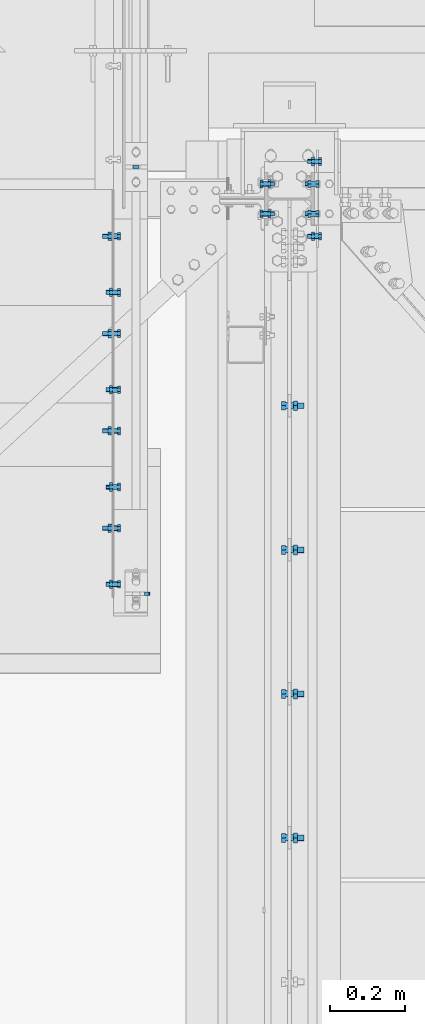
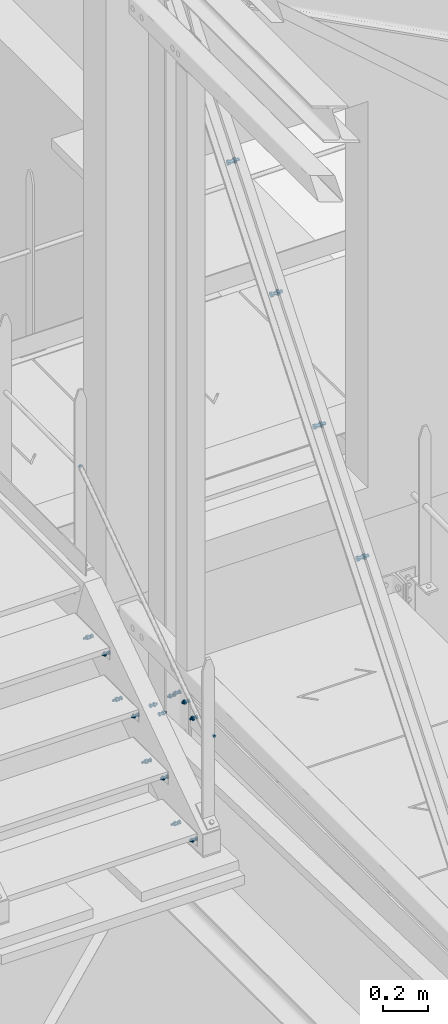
# One storey, part 254 of 362: 20 mechanical fasteners.
"""IFC2X3 building model written with IfcOpenShell, lengths in millimetres."""

import ifcopenshell
import ifcopenshell.guid

model = None  # the IFC model being written
_history = None  # IfcOwnerHistory: only IFC2X3 demands one
_inside = {}  # id of a spatial element -> (the spatial element, [elements in it])
_under = {}  # id of a project, library or spatial element -> (it, [spatial elements below it])
_declared = {}  # id of a project -> (the project, [libraries it declares])
_typed = {}  # id of a type object -> (the type object, [elements of that type])
_made_of = {}  # id of a material, layer set ... -> (it, [elements and type objects made of it])


def new_model(schema):
    """Start an empty IFC model of exactly this schema.

    Asked for "IFC4X3", IfcOpenShell would pick the latest addendum, in which some entities
    have other attributes; the version numbers below select the first issue.
    IFC2X3 requires an IfcOwnerHistory on every rooted entity: one is made here for all.
    """
    global model, _history
    if schema == "IFC4X3":
        model = ifcopenshell.file(schema_version=(4, 3, 0, 0))
    else:
        model = ifcopenshell.file(schema=schema)
    _inside.clear()
    _under.clear()
    _declared.clear()
    _typed.clear()
    _made_of.clear()
    _history = None
    if model.schema == "IFC2X3":
        org = make("IfcOrganization", Name="unknown")
        user = make(
            "IfcPersonAndOrganization",
            ThePerson=make("IfcPerson", FamilyName="unknown"),
            TheOrganization=org,
        )
        app = make(
            "IfcApplication",
            ApplicationDeveloper=org,
            Version="unknown",
            ApplicationFullName="unknown",
            ApplicationIdentifier="unknown",
        )
        _history = make(
            "IfcOwnerHistory",
            OwningUser=user,
            OwningApplication=app,
            ChangeAction="ADDED",
            CreationDate=0,
        )
    return model


def make(cls, **values):
    """One entity of the class cls with the attributes given. An attribute that is None is left unset."""
    return model.create_entity(
        cls, **{name: value for name, value in values.items() if value is not None}
    )


def rooted(cls, **values):
    """An entity with a GlobalId (a new one), such as an element, a storey or a relation."""
    return make(cls, GlobalId=ifcopenshell.guid.new(), OwnerHistory=_history, **values)


def si_unit(unit_type, name, prefix=None):
    """IfcSIUnit, for example si_unit("LENGTHUNIT", "METRE", prefix="MILLI")."""
    return make("IfcSIUnit", UnitType=unit_type, Prefix=prefix, Name=name)


def assignment(units):
    """IfcUnitAssignment: the units of a project."""
    return None if units is None else make("IfcUnitAssignment", Units=units)


def point(xyz):
    """IfcCartesianPoint."""
    return None if xyz is None else make("IfcCartesianPoint", Coordinates=xyz)


def direction(xyz):
    """IfcDirection."""
    return None if xyz is None else make("IfcDirection", DirectionRatios=xyz)


def frame(location, z_axis=None, x_axis=None):
    """IfcAxis2Placement3D, a coordinate frame: its origin and axes. An axis left out is left unset."""
    return make(
        "IfcAxis2Placement3D",
        Location=point(location),
        Axis=direction(z_axis),
        RefDirection=direction(x_axis),
    )


def frame_2d(location, x_axis=None):
    """IfcAxis2Placement2D, a coordinate frame in the plane: its origin and x axis."""
    return make(
        "IfcAxis2Placement2D", Location=point(location), RefDirection=direction(x_axis)
    )


def origin_with_axes():
    """The frame at (0, 0, 0) with the z axis (0, 0, 1) and the x axis (1, 0, 0) written out."""
    return frame((0.0, 0.0, 0.0), z_axis=(0.0, 0.0, 1.0), x_axis=(1.0, 0.0, 0.0))


def origin_2d_with_axis():
    """The frame at (0, 0) in the plane with the x axis (1, 0) written out."""
    return frame_2d((0.0, 0.0), x_axis=(1.0, 0.0))


def place(relative_to, where):
    """IfcLocalPlacement: puts the frame where relative to a parent placement (None: the world)."""
    return make(
        "IfcLocalPlacement", PlacementRelTo=relative_to, RelativePlacement=where
    )


def context(
    kind, dimensions, precision=None, world=None, true_north=None, identifier=None
):
    """IfcGeometricRepresentationContext, for example the 3D "Model" context."""
    return make(
        "IfcGeometricRepresentationContext",
        ContextIdentifier=identifier,
        ContextType=kind,
        CoordinateSpaceDimension=dimensions,
        Precision=precision,
        WorldCoordinateSystem=world,
        TrueNorth=true_north,
    )


def subcontext(parent, identifier, kind, view, scale=None):
    """IfcGeometricRepresentationSubContext, for example "Body" below "Model"."""
    return make(
        "IfcGeometricRepresentationSubContext",
        ContextIdentifier=identifier,
        ContextType=kind,
        ParentContext=parent,
        TargetScale=scale,
        TargetView=view,
    )


def project(units=None, contexts=None):
    """IfcProject with its units and contexts."""
    return rooted(
        "IfcProject",
        Name="project",
        RepresentationContexts=contexts,
        UnitsInContext=assignment(units),
    )


def spatial(cls, under=None, at=None, **own):
    """A site, building, storey or space (cls), placed at a placement, below another one or the project."""
    s = rooted(cls, ObjectPlacement=at, **own)
    if under is not None:
        _under.setdefault(under.id(), (under, []))[1].append(s)
    return s


def polyline(points):
    """IfcPolyline through the points."""
    return make("IfcPolyline", Points=[point(p) for p in points])


def circle_curve(where, radius):
    """IfcCircle in the frame where."""
    return make("IfcCircle", Position=where, Radius=radius)


def parameter(value):
    """IfcParameterValue: where a trimmed curve begins or ends, as a parameter of its basis curve."""
    return model.create_entity("IfcParameterValue", value)


def trimmed(basis, trim1, trim2, sense, master):
    """IfcTrimmedCurve: the piece of a basis curve between two trims."""
    return make(
        "IfcTrimmedCurve",
        BasisCurve=basis,
        Trim1=trim1,
        Trim2=trim2,
        SenseAgreement=sense,
        MasterRepresentation=master,
    )


def segment(curve, same_sense, transition):
    """IfcCompositeCurveSegment."""
    return make(
        "IfcCompositeCurveSegment",
        Transition=transition,
        SameSense=same_sense,
        ParentCurve=curve,
    )


def composite_curve(segments, self_intersect=None):
    """IfcCompositeCurve: segments joined end to end."""
    return make("IfcCompositeCurve", Segments=segments, SelfIntersect=self_intersect)


def profile(cls, at=None, kind="AREA", **sizes):
    """A parametric profile (cls). Its sizes go by their IFC names, for example OverallWidth=200.0."""
    return make(cls, ProfileType=kind, Position=at, **sizes)


def circle(**sizes):
    """IfcCircleProfileDef."""
    return profile("IfcCircleProfileDef", **sizes)


def outline(outer, holes=None, kind="AREA"):
    """IfcArbitraryClosedProfileDef: a profile drawn as a closed curve; with holes, ...WithVoids."""
    if holes is None:
        return make("IfcArbitraryClosedProfileDef", ProfileType=kind, OuterCurve=outer)
    return make(
        "IfcArbitraryProfileDefWithVoids",
        ProfileType=kind,
        OuterCurve=outer,
        InnerCurves=holes,
    )


def extrude(swept, where, along, depth):
    """IfcExtrudedAreaSolid: the profile swept, set in the frame where, extruded along a direction by depth."""
    return make(
        "IfcExtrudedAreaSolid",
        SweptArea=swept,
        Position=where,
        ExtrudedDirection=direction(along),
        Depth=depth,
    )


def shape(context_of_items, identifier, shape_type, items):
    """IfcShapeRepresentation: the items that make up one representation, for example the "Body"."""
    return make(
        "IfcShapeRepresentation",
        ContextOfItems=context_of_items,
        RepresentationIdentifier=identifier,
        RepresentationType=shape_type,
        Items=items,
    )


def source(mapping_origin, context_of_items, identifier, shape_type, items):
    """IfcRepresentationMap: a shape defined once, which mapped items show again and again."""
    return make(
        "IfcRepresentationMap",
        MappingOrigin=mapping_origin,
        MappedRepresentation=shape(context_of_items, identifier, shape_type, items),
    )


def transform(
    local_origin,
    x_axis=None,
    y_axis=None,
    z_axis=None,
    scale=None,
    scale2=None,
    scale3=None,
    uniform=True,
):
    """IfcCartesianTransformationOperator3D, or its non-uniform kind. x_axis, y_axis, z_axis: its Axis1, 2, 3."""
    if uniform:
        return make(
            "IfcCartesianTransformationOperator3D",
            Axis1=direction(x_axis),
            Axis2=direction(y_axis),
            LocalOrigin=point(local_origin),
            Scale=scale,
            Axis3=direction(z_axis),
        )
    return make(
        "IfcCartesianTransformationOperator3DnonUniform",
        Axis1=direction(x_axis),
        Axis2=direction(y_axis),
        LocalOrigin=point(local_origin),
        Scale=scale,
        Axis3=direction(z_axis),
        Scale2=scale2,
        Scale3=scale3,
    )


def mapped(mapping_source, mapping_target):
    """IfcMappedItem: shows the shape of a source again, moved by a transform."""
    return make(
        "IfcMappedItem", MappingSource=mapping_source, MappingTarget=mapping_target
    )


def material(Name=None, Category=None):
    """IfcMaterial."""
    return make("IfcMaterial", Name=Name, Category=Category)


def made_of(thing, what):
    """Note that an element or type object is made of a material, layer set ...; save() writes the relation."""
    if what is not None:
        _made_of.setdefault(what.id(), (what, []))[1].append(thing)
    return thing


def type_object(cls, material=None, **own):
    """A type object (cls), such as IfcWallType, which elements share."""
    return made_of(rooted(cls, **own), material)


def element(
    cls,
    number,
    at=None,
    inside=None,
    cuts=None,
    type_object=None,
    material=None,
    context=None,
    identifier="Body",
    shape_type=None,
    held_by="IfcProductDefinitionShape",
    body=None,
    shapes=None,
    **own,
):
    """One element of the class cls, such as IfcWall. Its Tag is "e" and its number.

    at: its placement. inside: the storey or other place that contains it. cuts: it is an
    opening in that element (IfcRelVoidsElement). A single representation is given by context,
    identifier, shape_type and body (its items); several are given by shapes. held_by: the class
    of the entity that holds the representations. save() writes the other relations.
    """
    e = rooted(cls, Tag="e%d" % number, ObjectPlacement=at, **own)
    if body is not None:
        shapes = [shape(context, identifier, shape_type, body)]
    if shapes is not None:
        e.Representation = make(held_by, Representations=shapes)
    if inside is not None:
        _inside.setdefault(inside.id(), (inside, []))[1].append(e)
    if cuts is not None:
        rooted(
            "IfcRelVoidsElement", RelatingBuildingElement=cuts, RelatedOpeningElement=e
        )
    if type_object is not None:
        _typed.setdefault(type_object.id(), (type_object, []))[1].append(e)
    return made_of(e, material)


def aggregate(whole, parts):
    """IfcRelAggregates: a whole, such as a stair, and the parts it consists of."""
    return rooted("IfcRelAggregates", RelatingObject=whole, RelatedObjects=parts)


def save(model, path):
    """Write the relations noted so far, then the file.

    IfcRelAggregates (storeys below a building ...), IfcRelContainedInSpatialStructure (elements
    in a storey), IfcRelDefinesByType, IfcRelAssociatesMaterial and IfcRelDeclares: one each for
    every whole, place, type object, material and project.
    """
    for whole, parts in _under.values():
        aggregate(whole, parts)
    for where, things in _inside.values():
        rooted(
            "IfcRelContainedInSpatialStructure",
            RelatedElements=things,
            RelatingStructure=where,
        )
    for kind, things in _typed.values():
        rooted("IfcRelDefinesByType", RelatedObjects=things, RelatingType=kind)
    for what, things in _made_of.values():
        rooted("IfcRelAssociatesMaterial", RelatedObjects=things, RelatingMaterial=what)
    for by, libraries in _declared.values():
        rooted("IfcRelDeclares", RelatingContext=by, RelatedDefinitions=libraries)
    model.write(path)


model = new_model("IFC2X3")

# Units and contexts
model_context = context("Model", 3, precision=1e-05, world=origin_with_axes())
body_context = subcontext(model_context, "Body", "Model", "MODEL_VIEW")
ifc_project = project(units=[si_unit("LENGTHUNIT", "METRE", prefix="MILLI"), si_unit("AREAUNIT", "SQUARE_METRE"), si_unit("VOLUMEUNIT", "CUBIC_METRE"), si_unit("MASSUNIT", "GRAM", prefix="KILO"), si_unit("TIMEUNIT", "SECOND"), si_unit("PLANEANGLEUNIT", "RADIAN"), si_unit("SOLIDANGLEUNIT", "STERADIAN"), si_unit("THERMODYNAMICTEMPERATUREUNIT", "DEGREE_CELSIUS"), si_unit("LUMINOUSINTENSITYUNIT", "LUMEN")], contexts=[model_context])

# Site, building, storey
site_placement = place(None, origin_with_axes())
site = spatial("IfcSite", under=ifc_project, at=site_placement, Name="Undefined", CompositionType="ELEMENT")
building_placement = place(site_placement, origin_with_axes())
building = spatial("IfcBuilding", under=site, at=building_placement, Name="Undefined", CompositionType="ELEMENT")
storey_placement = place(building_placement, origin_with_axes())
storey = spatial("IfcBuildingStorey", under=building, at=storey_placement, Name="Undefined", CompositionType="ELEMENT", Elevation=0.0)

# Mechanical fasteners
ifc_material_1 = material(Name="6.8")
mechanical_fastener_type = type_object("IfcMechanicalFastenerType", Name="Bolt assembly")
shared_shape_1 = source(origin_with_axes(), body_context, "Body", "SweptSolid", [
    extrude(circle(Radius=7.0, at=origin_2d_with_axis()), frame((0.0, 6.26397177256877e-05, 0.0), z_axis=(0.0, 1.0, 0.0), x_axis=(1.0, 0.0, 0.0)), (0.0, 0.0, 1.0), 10.1),
])
mechanical_fastener_1_placement = place(storey_placement, frame((12269.9936634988, 15290.0038659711, 9438.8), z_axis=(0.0, 0.0, 1.0), x_axis=(-1.0, 0.0, 0.0)))
element("IfcMechanicalFastener", 1, at=mechanical_fastener_1_placement, inside=storey, type_object=mechanical_fastener_type, material=ifc_material_1, Name="Bolt assembly", NominalDiameter=12.0, NominalLength=10.0, context=body_context, shape_type="MappedRepresentation", body=[
    mapped(shared_shape_1, transform((0.0, 0.0, 0.0))),
])
shared_shape_2 = source(origin_with_axes(), body_context, "Body", "SweptSolid", [
    extrude(circle(Radius=7.0, at=origin_2d_with_axis()), frame((0.0, 0.000125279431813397, 0.0), z_axis=(0.0, 1.0, 0.0), x_axis=(1.0, 0.0, 0.0)), (0.0, 0.0, 1.0), 10.1),
])
mechanical_fastener_2_placement = place(storey_placement, frame((12299.9935277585, 14149.9999163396, 8654.59997578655), z_axis=(0.0, 0.0, 1.0), x_axis=(-1.0, 0.0, 0.0)))
element("IfcMechanicalFastener", 2, at=mechanical_fastener_2_placement, inside=storey, type_object=mechanical_fastener_type, material=ifc_material_1, Name="Bolt assembly", NominalDiameter=12.0, NominalLength=10.0, context=body_context, shape_type="MappedRepresentation", body=[
    mapped(shared_shape_2, transform((0.0, 0.0, 0.0))),
])
ifc_material_2 = material(Name="8.8-SB-GALVA")
shared_shape_3 = source(origin_with_axes(), body_context, "Body", "SweptSolid", [
    extrude(circle(Radius=7.0, at=origin_2d_with_axis()), frame((0.0, -9.90049171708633, 0.0), z_axis=(0.0, 1.0, 0.0), x_axis=(1.0, 0.0, 0.0)), (0.0, 0.0, 1.0), 10.0),
    extrude(circle(Radius=7.0, at=origin_2d_with_axis()), frame((0.0, -0.100011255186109, 0.0), z_axis=(0.0, 1.0, 0.0), x_axis=(1.0, 0.0, 0.0)), (0.0, 0.0, 1.0), 3.1),
    extrude(outline(polyline([(10.39230484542, 0.0), (5.19615242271, 9.00000000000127), (-5.19615242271, 9.00000000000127), (-10.39230484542, 0.0), (-5.19615242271, -9.00000000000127), (5.19615242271, -9.00000000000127), (10.39230484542, 0.0)])), frame((0.0, -17.9204917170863, 0.0), z_axis=(0.0, 1.0, 0.0), x_axis=(1.0, 0.0, 0.0)), (0.0, 0.0, 1.0), 7.92),
    extrude(circle(Radius=6.0, at=origin_2d_with_axis()), frame((0.0, -10.0004917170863, 0.0), z_axis=(0.0, 1.0, 0.0), x_axis=(1.0, 0.0, 0.0)), (0.0, 0.0, 1.0), 30.0),
    extrude(outline(polyline([(11.5008173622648, 0.0), (5.7504086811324, 9.96000000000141), (-5.7504086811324, 9.96000000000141), (-11.5008173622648, 0.0), (-5.7504086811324, -9.96000000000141), (5.7504086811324, -9.96000000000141), (11.5008173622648, 0.0)])), frame((0.0, 3.00000067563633, 0.0), z_axis=(0.0, 1.0, 0.0), x_axis=(1.0, 0.0, 0.0)), (0.0, 0.0, 1.0), 7.92),
])
mechanical_fastener_3_placement = place(storey_placement, frame((12209.9947340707, 14949.9997910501, 8645.0), z_axis=(0.0, 0.0, 1.0), x_axis=(0.0, 1.0, 0.0)))
element("IfcMechanicalFastener", 3, at=mechanical_fastener_3_placement, inside=storey, type_object=mechanical_fastener_type, material=ifc_material_2, Name="Bolt assembly", NominalDiameter=12.0, NominalLength=30.0, context=body_context, shape_type="MappedRepresentation", body=[
    mapped(shared_shape_3, transform((0.0, 0.0, 0.0))),
])
shared_shape_4 = source(origin_with_axes(), body_context, "Body", "SweptSolid", [
    extrude(circle(Radius=7.0, at=origin_2d_with_axis()), frame((0.0, -9.90049171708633, 0.0), z_axis=(0.0, 1.0, 0.0), x_axis=(1.0, 0.0, 0.0)), (0.0, 0.0, 1.0), 10.0),
    extrude(outline(composite_curve([segment(polyline([(-7.0, 7.0), (7.0, 7.0)]), True, "CONTINUOUS"), segment(trimmed(circle_curve(frame_2d((7.0, 0.0), x_axis=(0.0, 1.0)), 7.0), [parameter(0.0)], [parameter(3.14159265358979)], False, "PARAMETER"), True, "CONTINUOUS"), segment(polyline([(7.0, -7.0), (-7.0, -7.0)]), True, "CONTINUOUS"), segment(trimmed(circle_curve(frame_2d((-7.0, 0.0), x_axis=(0.0, -1.0)), 7.0), [parameter(0.0)], [parameter(3.14159265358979)], False, "PARAMETER"), True, "DISCONTINUOUS")], self_intersect=False)), frame((0.0, -0.100011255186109, 0.0), z_axis=(0.0, 1.0, 0.0), x_axis=(1.0, 0.0, 0.0)), (0.0, 0.0, 1.0), 3.1),
    extrude(outline(polyline([(10.39230484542, 0.0), (5.19615242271, 9.00000000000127), (-5.19615242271, 9.00000000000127), (-10.39230484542, 0.0), (-5.19615242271, -9.00000000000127), (5.19615242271, -9.00000000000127), (10.39230484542, 0.0)])), frame((0.0, -17.9204917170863, 0.0), z_axis=(0.0, 1.0, 0.0), x_axis=(1.0, 0.0, 0.0)), (0.0, 0.0, 1.0), 7.92),
    extrude(circle(Radius=6.0, at=origin_2d_with_axis()), frame((0.0, -10.0004917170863, 0.0), z_axis=(0.0, 1.0, 0.0), x_axis=(1.0, 0.0, 0.0)), (0.0, 0.0, 1.0), 40.0),
    extrude(circle(Radius=10.8, at=origin_2d_with_axis()), frame((0.0, 3.00000067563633, 0.0), z_axis=(0.0, 1.0, 0.0), x_axis=(1.0, 0.0, 0.0)), (0.0, 0.0, 1.0), 3.96),
    extrude(outline(polyline([(11.5008173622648, 0.0), (5.7504086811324, 9.96000000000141), (-5.7504086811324, 9.96000000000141), (-11.5008173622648, 0.0), (-5.7504086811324, -9.96000000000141), (5.7504086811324, -9.96000000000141), (11.5008173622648, 0.0)])), frame((0.0, 6.96, 0.0), z_axis=(0.0, 1.0, 0.0), x_axis=(1.0, 0.0, 0.0)), (0.0, 0.0, 1.0), 7.92),
])
mechanical_fastener_4_placement = place(storey_placement, frame((12209.9947340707, 15099.9997910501, 8645.0), z_axis=(0.0, 0.0, 1.0), x_axis=(0.0, 1.0, 0.0)))
element("IfcMechanicalFastener", 4, at=mechanical_fastener_4_placement, inside=storey, type_object=mechanical_fastener_type, material=ifc_material_2, Name="Bolt assembly", NominalDiameter=12.0, NominalLength=40.0, context=body_context, shape_type="MappedRepresentation", body=[
    mapped(shared_shape_4, transform((0.0, 0.0, 0.0))),
])
shared_shape_5 = source(origin_with_axes(), body_context, "Body", "SweptSolid", [
    extrude(circle(Radius=7.0, at=origin_2d_with_axis()), frame((0.0, -9.89994875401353, 0.0), z_axis=(0.0, 1.0, 0.0), x_axis=(1.0, 0.0, 0.0)), (0.0, 0.0, 1.0), 10.0),
    extrude(circle(Radius=7.0, at=origin_2d_with_axis()), frame((0.0, -0.100011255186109, 0.0), z_axis=(0.0, 1.0, 0.0), x_axis=(1.0, 0.0, 0.0)), (0.0, 0.0, 1.0), 3.1),
    extrude(outline(polyline([(10.39230484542, 0.0), (5.19615242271, 9.00000000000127), (-5.19615242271, 9.00000000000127), (-10.39230484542, 0.0), (-5.19615242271, -9.00000000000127), (5.19615242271, -9.00000000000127), (10.39230484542, 0.0)])), frame((0.0, -17.9199487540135, 0.0), z_axis=(0.0, 1.0, 0.0), x_axis=(1.0, 0.0, 0.0)), (0.0, 0.0, 1.0), 7.92),
    extrude(circle(Radius=6.0, at=origin_2d_with_axis()), frame((0.0, -9.99994875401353, 0.0), z_axis=(0.0, 1.0, 0.0), x_axis=(1.0, 0.0, 0.0)), (0.0, 0.0, 1.0), 30.0),
    extrude(outline(polyline([(11.5008173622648, 0.0), (5.7504086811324, 9.96000000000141), (-5.7504086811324, 9.96000000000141), (-11.5008173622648, 0.0), (-5.7504086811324, -9.96000000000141), (5.7504086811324, -9.96000000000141), (11.5008173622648, 0.0)])), frame((0.0, 3.00000067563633, 0.0), z_axis=(0.0, 1.0, 0.0), x_axis=(1.0, 0.0, 0.0)), (0.0, 0.0, 1.0), 7.92),
])
mechanical_fastener_5_placement = place(storey_placement, frame((12209.9947340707, 14689.9997910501, 8465.00000004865), z_axis=(0.0, 0.0, 1.0), x_axis=(0.0, 1.0, 0.0)))
element("IfcMechanicalFastener", 5, at=mechanical_fastener_5_placement, inside=storey, type_object=mechanical_fastener_type, material=ifc_material_2, Name="Bolt assembly", NominalDiameter=12.0, NominalLength=30.0, context=body_context, shape_type="MappedRepresentation", body=[
    mapped(shared_shape_5, transform((0.0, 0.0, 0.0))),
])
shared_shape_6 = source(origin_with_axes(), body_context, "Body", "SweptSolid", [
    extrude(circle(Radius=7.0, at=origin_2d_with_axis()), frame((0.0, -9.9, 0.0), z_axis=(0.0, 1.0, 0.0), x_axis=(1.0, 0.0, 0.0)), (0.0, 0.0, 1.0), 10.0),
    extrude(outline(composite_curve([segment(polyline([(-7.0, 7.0), (7.0, 7.0)]), True, "CONTINUOUS"), segment(trimmed(circle_curve(frame_2d((7.0, 0.0), x_axis=(0.0, 1.0)), 7.0), [parameter(0.0)], [parameter(3.14159265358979)], False, "PARAMETER"), True, "CONTINUOUS"), segment(polyline([(7.0, -7.0), (-7.0, -7.0)]), True, "CONTINUOUS"), segment(trimmed(circle_curve(frame_2d((-7.0, 0.0), x_axis=(0.0, -1.0)), 7.0), [parameter(0.0)], [parameter(3.14159265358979)], False, "PARAMETER"), True, "DISCONTINUOUS")], self_intersect=False)), frame((0.0, -0.100011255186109, 0.0), z_axis=(0.0, 1.0, 0.0), x_axis=(1.0, 0.0, 0.0)), (0.0, 0.0, 1.0), 3.1),
    extrude(outline(polyline([(10.39230484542, 0.0), (5.19615242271, 9.00000000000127), (-5.19615242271, 9.00000000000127), (-10.39230484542, 0.0), (-5.19615242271, -9.00000000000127), (5.19615242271, -9.00000000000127), (10.39230484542, 0.0)])), frame((0.0, -17.92, 0.0), z_axis=(0.0, 1.0, 0.0), x_axis=(1.0, 0.0, 0.0)), (0.0, 0.0, 1.0), 7.92),
    extrude(circle(Radius=6.0, at=origin_2d_with_axis()), frame((0.0, -10.0000010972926, 0.0), z_axis=(0.0, 1.0, 0.0), x_axis=(1.0, 0.0, 0.0)), (0.0, 0.0, 1.0), 40.0),
    extrude(circle(Radius=10.8, at=origin_2d_with_axis()), frame((0.0, 3.00000067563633, 0.0), z_axis=(0.0, 1.0, 0.0), x_axis=(1.0, 0.0, 0.0)), (0.0, 0.0, 1.0), 3.96),
    extrude(outline(polyline([(11.5008173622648, 0.0), (5.7504086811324, 9.96000000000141), (-5.7504086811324, 9.96000000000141), (-11.5008173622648, 0.0), (-5.7504086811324, -9.96000000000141), (5.7504086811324, -9.96000000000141), (11.5008173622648, 0.0)])), frame((0.0, 6.96, 0.0), z_axis=(0.0, 1.0, 0.0), x_axis=(1.0, 0.0, 0.0)), (0.0, 0.0, 1.0), 7.92),
])
mechanical_fastener_6_placement = place(storey_placement, frame((12209.9947340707, 14839.9997910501, 8465.00000004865), z_axis=(0.0, 0.0, 1.0), x_axis=(0.0, 1.0, 0.0)))
element("IfcMechanicalFastener", 6, at=mechanical_fastener_6_placement, inside=storey, type_object=mechanical_fastener_type, material=ifc_material_2, Name="Bolt assembly", NominalDiameter=12.0, NominalLength=40.0, context=body_context, shape_type="MappedRepresentation", body=[
    mapped(shared_shape_6, transform((0.0, 0.0, 0.0))),
])
shared_shape_7 = source(origin_with_axes(), body_context, "Body", "SweptSolid", [
    extrude(circle(Radius=7.0, at=origin_2d_with_axis()), frame((0.0, -9.89940579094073, 0.0), z_axis=(0.0, 1.0, 0.0), x_axis=(1.0, 0.0, 0.0)), (0.0, 0.0, 1.0), 10.0),
    extrude(circle(Radius=7.0, at=origin_2d_with_axis()), frame((0.0, -0.100011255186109, 0.0), z_axis=(0.0, 1.0, 0.0), x_axis=(1.0, 0.0, 0.0)), (0.0, 0.0, 1.0), 3.1),
    extrude(outline(polyline([(10.39230484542, 0.0), (5.19615242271, 9.00000000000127), (-5.19615242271, 9.00000000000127), (-10.39230484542, 0.0), (-5.19615242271, -9.00000000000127), (5.19615242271, -9.00000000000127), (10.39230484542, 0.0)])), frame((0.0, -17.9194057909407, 0.0), z_axis=(0.0, 1.0, 0.0), x_axis=(1.0, 0.0, 0.0)), (0.0, 0.0, 1.0), 7.92),
    extrude(circle(Radius=6.0, at=origin_2d_with_axis()), frame((0.0, -9.99940579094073, 0.0), z_axis=(0.0, 1.0, 0.0), x_axis=(1.0, 0.0, 0.0)), (0.0, 0.0, 1.0), 30.0),
    extrude(outline(polyline([(11.5008173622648, 0.0), (5.7504086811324, 9.96000000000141), (-5.7504086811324, 9.96000000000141), (-11.5008173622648, 0.0), (-5.7504086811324, -9.96000000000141), (5.7504086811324, -9.96000000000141), (11.5008173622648, 0.0)])), frame((0.0, 3.00000067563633, 0.0), z_axis=(0.0, 1.0, 0.0), x_axis=(1.0, 0.0, 0.0)), (0.0, 0.0, 1.0), 7.92),
])
mechanical_fastener_7_placement = place(storey_placement, frame((12209.9947340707, 14429.9997910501, 8285.00000007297), z_axis=(0.0, 0.0, 1.0), x_axis=(0.0, 1.0, 0.0)))
element("IfcMechanicalFastener", 7, at=mechanical_fastener_7_placement, inside=storey, type_object=mechanical_fastener_type, material=ifc_material_2, Name="Bolt assembly", NominalDiameter=12.0, NominalLength=30.0, context=body_context, shape_type="MappedRepresentation", body=[
    mapped(shared_shape_7, transform((0.0, 0.0, 0.0))),
])
shared_shape_8 = source(origin_with_axes(), body_context, "Body", "SweptSolid", [
    extrude(circle(Radius=7.0, at=origin_2d_with_axis()), frame((0.0, -9.89940579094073, 0.0), z_axis=(0.0, 1.0, 0.0), x_axis=(1.0, 0.0, 0.0)), (0.0, 0.0, 1.0), 10.0),
    extrude(outline(composite_curve([segment(polyline([(-7.0, 7.0), (7.0, 7.0)]), True, "CONTINUOUS"), segment(trimmed(circle_curve(frame_2d((7.0, 0.0), x_axis=(0.0, 1.0)), 7.0), [parameter(0.0)], [parameter(3.14159265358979)], False, "PARAMETER"), True, "CONTINUOUS"), segment(polyline([(7.0, -7.0), (-7.0, -7.0)]), True, "CONTINUOUS"), segment(trimmed(circle_curve(frame_2d((-7.0, 0.0), x_axis=(0.0, -1.0)), 7.0), [parameter(0.0)], [parameter(3.14159265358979)], False, "PARAMETER"), True, "DISCONTINUOUS")], self_intersect=False)), frame((0.0, -0.100011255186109, 0.0), z_axis=(0.0, 1.0, 0.0), x_axis=(1.0, 0.0, 0.0)), (0.0, 0.0, 1.0), 3.1),
    extrude(outline(polyline([(10.39230484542, 0.0), (5.19615242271, 9.00000000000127), (-5.19615242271, 9.00000000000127), (-10.39230484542, 0.0), (-5.19615242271, -9.00000000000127), (5.19615242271, -9.00000000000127), (10.39230484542, 0.0)])), frame((0.0, -17.9194057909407, 0.0), z_axis=(0.0, 1.0, 0.0), x_axis=(1.0, 0.0, 0.0)), (0.0, 0.0, 1.0), 7.92),
    extrude(circle(Radius=6.0, at=origin_2d_with_axis()), frame((0.0, -9.99940579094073, 0.0), z_axis=(0.0, 1.0, 0.0), x_axis=(1.0, 0.0, 0.0)), (0.0, 0.0, 1.0), 40.0),
    extrude(circle(Radius=10.8, at=origin_2d_with_axis()), frame((0.0, 3.00000067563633, 0.0), z_axis=(0.0, 1.0, 0.0), x_axis=(1.0, 0.0, 0.0)), (0.0, 0.0, 1.0), 3.96),
    extrude(outline(polyline([(11.5008173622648, 0.0), (5.7504086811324, 9.96000000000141), (-5.7504086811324, 9.96000000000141), (-11.5008173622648, 0.0), (-5.7504086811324, -9.96000000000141), (5.7504086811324, -9.96000000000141), (11.5008173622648, 0.0)])), frame((0.0, 6.96, 0.0), z_axis=(0.0, 1.0, 0.0), x_axis=(1.0, 0.0, 0.0)), (0.0, 0.0, 1.0), 7.92),
])
mechanical_fastener_8_placement = place(storey_placement, frame((12209.9947340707, 14579.9997910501, 8285.00000007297), z_axis=(0.0, 0.0, 1.0), x_axis=(0.0, 1.0, 0.0)))
element("IfcMechanicalFastener", 8, at=mechanical_fastener_8_placement, inside=storey, type_object=mechanical_fastener_type, material=ifc_material_2, Name="Bolt assembly", NominalDiameter=12.0, NominalLength=40.0, context=body_context, shape_type="MappedRepresentation", body=[
    mapped(shared_shape_8, transform((0.0, 0.0, 0.0))),
])
shared_shape_9 = source(origin_with_axes(), body_context, "Body", "SweptSolid", [
    extrude(circle(Radius=7.0, at=origin_2d_with_axis()), frame((0.0, -9.89886282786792, 0.0), z_axis=(0.0, 1.0, 0.0), x_axis=(1.0, 0.0, 0.0)), (0.0, 0.0, 1.0), 10.0),
    extrude(circle(Radius=7.0, at=origin_2d_with_axis()), frame((0.0, -0.100011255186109, 0.0), z_axis=(0.0, 1.0, 0.0), x_axis=(1.0, 0.0, 0.0)), (0.0, 0.0, 1.0), 3.1),
    extrude(outline(polyline([(10.39230484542, 0.0), (5.19615242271, 9.00000000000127), (-5.19615242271, 9.00000000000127), (-10.39230484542, 0.0), (-5.19615242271, -9.00000000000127), (5.19615242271, -9.00000000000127), (10.39230484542, 0.0)])), frame((0.0, -17.9188628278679, 0.0), z_axis=(0.0, 1.0, 0.0), x_axis=(1.0, 0.0, 0.0)), (0.0, 0.0, 1.0), 7.92),
    extrude(circle(Radius=6.0, at=origin_2d_with_axis()), frame((0.0, -9.99886282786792, 0.0), z_axis=(0.0, 1.0, 0.0), x_axis=(1.0, 0.0, 0.0)), (0.0, 0.0, 1.0), 30.0),
    extrude(outline(polyline([(11.5008173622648, 0.0), (5.7504086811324, 9.96000000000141), (-5.7504086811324, 9.96000000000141), (-11.5008173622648, 0.0), (-5.7504086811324, -9.96000000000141), (5.7504086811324, -9.96000000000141), (11.5008173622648, 0.0)])), frame((0.0, 3.00000067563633, 0.0), z_axis=(0.0, 1.0, 0.0), x_axis=(1.0, 0.0, 0.0)), (0.0, 0.0, 1.0), 7.92),
])
mechanical_fastener_9_placement = place(storey_placement, frame((12209.9947340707, 14169.9997910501, 8105.0000000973), z_axis=(0.0, 0.0, 1.0), x_axis=(0.0, 1.0, 0.0)))
element("IfcMechanicalFastener", 9, at=mechanical_fastener_9_placement, inside=storey, type_object=mechanical_fastener_type, material=ifc_material_2, Name="Bolt assembly", NominalDiameter=12.0, NominalLength=30.0, context=body_context, shape_type="MappedRepresentation", body=[
    mapped(shared_shape_9, transform((0.0, 0.0, 0.0))),
])
shared_shape_10 = source(origin_with_axes(), body_context, "Body", "SweptSolid", [
    extrude(circle(Radius=7.0, at=origin_2d_with_axis()), frame((0.0, -9.89886282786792, 0.0), z_axis=(0.0, 1.0, 0.0), x_axis=(1.0, 0.0, 0.0)), (0.0, 0.0, 1.0), 10.0),
    extrude(outline(composite_curve([segment(polyline([(-7.0, 7.0), (7.0, 7.0)]), True, "CONTINUOUS"), segment(trimmed(circle_curve(frame_2d((7.0, 0.0), x_axis=(0.0, 1.0)), 7.0), [parameter(0.0)], [parameter(3.14159265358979)], False, "PARAMETER"), True, "CONTINUOUS"), segment(polyline([(7.0, -7.0), (-7.0, -7.0)]), True, "CONTINUOUS"), segment(trimmed(circle_curve(frame_2d((-7.0, 0.0), x_axis=(0.0, -1.0)), 7.0), [parameter(0.0)], [parameter(3.14159265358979)], False, "PARAMETER"), True, "DISCONTINUOUS")], self_intersect=False)), frame((0.0, -0.100011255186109, 0.0), z_axis=(0.0, 1.0, 0.0), x_axis=(1.0, 0.0, 0.0)), (0.0, 0.0, 1.0), 3.1),
    extrude(outline(polyline([(10.39230484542, 0.0), (5.19615242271, 9.00000000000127), (-5.19615242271, 9.00000000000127), (-10.39230484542, 0.0), (-5.19615242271, -9.00000000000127), (5.19615242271, -9.00000000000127), (10.39230484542, 0.0)])), frame((0.0, -17.9188628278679, 0.0), z_axis=(0.0, 1.0, 0.0), x_axis=(1.0, 0.0, 0.0)), (0.0, 0.0, 1.0), 7.92),
    extrude(circle(Radius=6.0, at=origin_2d_with_axis()), frame((0.0, -9.99886282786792, 0.0), z_axis=(0.0, 1.0, 0.0), x_axis=(1.0, 0.0, 0.0)), (0.0, 0.0, 1.0), 40.0),
    extrude(circle(Radius=10.8, at=origin_2d_with_axis()), frame((0.0, 3.00000067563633, 0.0), z_axis=(0.0, 1.0, 0.0), x_axis=(1.0, 0.0, 0.0)), (0.0, 0.0, 1.0), 3.96),
    extrude(outline(polyline([(11.5008173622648, 0.0), (5.7504086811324, 9.96000000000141), (-5.7504086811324, 9.96000000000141), (-11.5008173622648, 0.0), (-5.7504086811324, -9.96000000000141), (5.7504086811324, -9.96000000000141), (11.5008173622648, 0.0)])), frame((0.0, 6.96, 0.0), z_axis=(0.0, 1.0, 0.0), x_axis=(1.0, 0.0, 0.0)), (0.0, 0.0, 1.0), 7.92),
])
mechanical_fastener_10_placement = place(storey_placement, frame((12209.9947340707, 14319.9997910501, 8105.0000000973), z_axis=(0.0, 0.0, 1.0), x_axis=(0.0, 1.0, 0.0)))
element("IfcMechanicalFastener", 10, at=mechanical_fastener_10_placement, inside=storey, type_object=mechanical_fastener_type, material=ifc_material_2, Name="Bolt assembly", NominalDiameter=12.0, NominalLength=40.0, context=body_context, shape_type="MappedRepresentation", body=[
    mapped(shared_shape_10, transform((0.0, 0.0, 0.0))),
])
ifc_material_3 = material(Name="8.8-SB-ZINGUE")
shared_shape_11 = source(origin_with_axes(), body_context, "Body", "SweptSolid", [
    extrude(circle(Radius=9.0, at=origin_2d_with_axis()), frame((0.0, -10.9000000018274, 0.0), z_axis=(0.0, 1.0, 0.0), x_axis=(1.0, 0.0, 0.0)), (0.0, 0.0, 1.0), 6.0),
    extrude(circle(Radius=9.0, at=origin_2d_with_axis()), frame((0.0, 4.9000000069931, 0.0), z_axis=(0.0, 1.0, 0.0), x_axis=(1.0, 0.0, 0.0)), (0.0, 0.0, 1.0), 6.1),
    extrude(circle(Radius=9.0, at=origin_2d_with_axis()), frame((0.0, -3.99999923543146, 0.0), z_axis=(0.0, 1.0, 0.0), x_axis=(1.0, 0.0, 0.0)), (0.0, 0.0, 1.0), 8.0),
    extrude(outline(polyline([(13.85640646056, 0.0), (6.92820323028, 12.0000000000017), (-6.92820323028, 12.0000000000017), (-13.85640646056, 0.0), (-6.92820323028, -12.0000000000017), (6.92820323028, -12.0000000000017), (13.85640646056, 0.0)])), frame((0.0, -21.5600000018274, 0.0), z_axis=(0.0, 1.0, 0.0), x_axis=(1.0, 0.0, 0.0)), (0.0, 0.0, 1.0), 10.56),
    extrude(circle(Radius=8.0, at=origin_2d_with_axis()), frame((0.0, -11.0000000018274, 0.0), z_axis=(0.0, 1.0, 0.0), x_axis=(1.0, 0.0, 0.0)), (0.0, 0.0, 1.0), 50.0),
    extrude(outline(polyline([(15.3344231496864, 0.0), (7.6672115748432, 13.2800000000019), (-7.6672115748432, 13.2800000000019), (-15.3344231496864, 0.0), (-7.6672115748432, -13.2800000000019), (7.6672115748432, -13.2800000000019), (15.3344231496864, 0.0)])), frame((0.0, 11.0000000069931, 0.0), z_axis=(0.0, 1.0, 0.0), x_axis=(1.0, 0.0, 0.0)), (0.0, 0.0, 1.0), 10.56),
])
for number, where, z_axis, x_axis, name in (
    (11, (12680.0, 13492.4589858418, 9885.94767396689), (0.0, 1.0, 0.0), (0.0, 0.0, 1.0), "Bolt assembly"),
    (12, (12680.0, 13877.3769562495, 10370.8430229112), (0.0, 1.0, 0.0), (0.0, 0.0, 1.0), "Bolt assembly"),
    (13, (12680.0, 14262.2949266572, 10855.7383718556), (0.0, 1.0, 0.0), (0.0, 0.0, 1.0), "Bolt assembly"),
    (14, (12680.0, 14647.2128970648, 11340.6337207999), (0.0, 1.0, 0.0), (0.0, 0.0, 1.0), "Bolt assembly"),
):
    element("IfcMechanicalFastener", number, at=place(storey_placement, frame(where, z_axis=z_axis, x_axis=x_axis)), inside=storey, type_object=mechanical_fastener_type, material=ifc_material_3, Name=name, NominalDiameter=16.0, NominalLength=50.0, context=body_context, shape_type="MappedRepresentation", body=[
        mapped(shared_shape_11, transform((0.0, 0.0, 0.0))),
    ])
shared_shape_12 = source(origin_with_axes(), body_context, "Body", "SweptSolid", [
    extrude(circle(Radius=7.0, at=origin_2d_with_axis()), frame((0.0, -0.108038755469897, 0.0), z_axis=(0.0, 1.0, 0.0), x_axis=(1.0, 0.0, 0.0)), (0.0, 0.0, 1.0), 5.1),
    extrude(circle(Radius=7.0, at=origin_2d_with_axis()), frame((0.0, -6.4, 0.0), z_axis=(0.0, 1.0, 0.0), x_axis=(1.0, 0.0, 0.0)), (0.0, 0.0, 1.0), 6.0),
    extrude(outline(polyline([(10.39230484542, 0.0), (5.19615242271, 9.00000000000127), (-5.19615242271, 9.00000000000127), (-10.39230484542, 0.0), (-5.19615242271, -9.00000000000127), (5.19615242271, -9.00000000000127), (10.39230484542, 0.0)])), frame((0.0, -14.42, 0.0), z_axis=(0.0, 1.0, 0.0), x_axis=(1.0, 0.0, 0.0)), (0.0, 0.0, 1.0), 7.92),
    extrude(circle(Radius=6.0, at=origin_2d_with_axis()), frame((0.0, -6.5, 0.0), z_axis=(0.0, 1.0, 0.0), x_axis=(1.0, 0.0, 0.0)), (0.0, 0.0, 1.0), 30.0),
    extrude(outline(polyline([(11.5008173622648, 0.0), (5.7504086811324, 9.96000000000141), (-5.7504086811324, 9.96000000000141), (-11.5008173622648, 0.0), (-5.7504086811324, -9.96000000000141), (5.7504086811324, -9.96000000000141), (11.5008173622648, 0.0)])), frame((0.0, 4.99200112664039, 0.0), z_axis=(0.0, 1.0, 0.0), x_axis=(1.0, 0.0, 0.0)), (0.0, 0.0, 1.0), 7.92),
])
for number, where, z_axis, x_axis, name in (
    (15, (12751.5001144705, 15300.0000000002, 8014.99999999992), (0.0, 0.0, -1.0), (0.0, -1.0, 0.0), "Bolt assembly"),
    (16, (12751.5001144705, 15099.9999999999, 8014.99999999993), (0.0, 0.0, 1.0), (0.0, 1.0, 0.0), "Bolt assembly"),
):
    element("IfcMechanicalFastener", number, at=place(storey_placement, frame(where, z_axis=z_axis, x_axis=x_axis)), inside=storey, type_object=mechanical_fastener_type, material=ifc_material_3, Name=name, NominalDiameter=12.0, NominalLength=30.0, context=body_context, shape_type="MappedRepresentation", body=[
        mapped(shared_shape_12, transform((0.0, 0.0, 0.0))),
    ])
shared_shape_13 = source(origin_with_axes(), body_context, "Body", "SweptSolid", [
    extrude(circle(Radius=7.0, at=origin_2d_with_axis()), frame((0.0, -0.0917710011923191, 0.0), z_axis=(0.0, 1.0, 0.0), x_axis=(1.0, 0.0, 0.0)), (0.0, 0.0, 1.0), 8.6),
    extrude(circle(Radius=7.0, at=origin_2d_with_axis()), frame((0.0, -4.89988938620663, 0.0), z_axis=(0.0, 1.0, 0.0), x_axis=(1.0, 0.0, 0.0)), (0.0, 0.0, 1.0), 5.0),
    extrude(outline(polyline([(10.39230484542, 0.0), (5.19615242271, 9.00000000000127), (-5.19615242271, 9.00000000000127), (-10.39230484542, 0.0), (-5.19615242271, -9.00000000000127), (5.19615242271, -9.00000000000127), (10.39230484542, 0.0)])), frame((0.0, -12.9198893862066, 0.0), z_axis=(0.0, 1.0, 0.0), x_axis=(1.0, 0.0, 0.0)), (0.0, 0.0, 1.0), 7.92),
    extrude(circle(Radius=6.0, at=origin_2d_with_axis()), frame((0.0, -4.99988938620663, 0.0), z_axis=(0.0, 1.0, 0.0), x_axis=(1.0, 0.0, 0.0)), (0.0, 0.0, 1.0), 30.0),
    extrude(outline(polyline([(11.5008173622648, 0.0), (5.7504086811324, 9.96000000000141), (-5.7504086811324, 9.96000000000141), (-11.5008173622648, 0.0), (-5.7504086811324, -9.96000000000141), (5.7504086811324, -9.96000000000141), (11.5008173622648, 0.0)])), frame((0.0, 8.50822899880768, 0.0), z_axis=(0.0, 1.0, 0.0), x_axis=(1.0, 0.0, 0.0)), (0.0, 0.0, 1.0), 7.92),
])
for number, where, z_axis, x_axis, name in (
    (17, (12746.5082291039, 15160.0000009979, 8069.99999999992), (0.0, 1.0, 0.0), (0.0, 0.0, -1.0), "Bolt assembly"),
    (18, (12746.5082291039, 15240.000000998, 8069.99999999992), (0.0, 1.0, 0.0), (0.0, 0.0, -1.0), "Bolt assembly"),
):
    element("IfcMechanicalFastener", number, at=place(storey_placement, frame(where, z_axis=z_axis, x_axis=x_axis)), inside=storey, type_object=mechanical_fastener_type, material=ifc_material_3, Name=name, NominalDiameter=12.0, NominalLength=30.0, context=body_context, shape_type="MappedRepresentation", body=[
        mapped(shared_shape_13, transform((0.0, 0.0, 0.0))),
    ])
shared_shape_14 = source(origin_with_axes(), body_context, "Body", "SweptSolid", [
    extrude(circle(Radius=7.0, at=origin_2d_with_axis()), frame((0.0, -0.100011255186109, 0.0), z_axis=(0.0, 1.0, 0.0), x_axis=(1.0, 0.0, 0.0)), (0.0, 0.0, 1.0), 8.6),
    extrude(circle(Radius=7.0, at=origin_2d_with_axis()), frame((0.0, -3.89999843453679, 0.0), z_axis=(0.0, 1.0, 0.0), x_axis=(1.0, 0.0, 0.0)), (0.0, 0.0, 1.0), 4.0),
    extrude(outline(polyline([(10.39230484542, 0.0), (5.19615242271, 9.00000000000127), (-5.19615242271, 9.00000000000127), (-10.39230484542, 0.0), (-5.19615242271, -9.00000000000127), (5.19615242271, -9.00000000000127), (10.39230484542, 0.0)])), frame((0.0, -11.9199984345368, 0.0), z_axis=(0.0, 1.0, 0.0), x_axis=(1.0, 0.0, 0.0)), (0.0, 0.0, 1.0), 7.92),
    extrude(circle(Radius=6.0, at=origin_2d_with_axis()), frame((0.0, -3.99999923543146, 0.0), z_axis=(0.0, 1.0, 0.0), x_axis=(1.0, 0.0, 0.0)), (0.0, 0.0, 1.0), 30.0),
    extrude(outline(polyline([(11.5008173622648, 0.0), (5.7504086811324, 9.96000000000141), (-5.7504086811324, 9.96000000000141), (-11.5008173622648, 0.0), (-5.7504086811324, -9.96000000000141), (5.7504086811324, -9.96000000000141), (11.5008173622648, 0.0)])), frame((0.0, 8.49999994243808, 0.0), z_axis=(0.0, 1.0, 0.0), x_axis=(1.0, 0.0, 0.0)), (0.0, 0.0, 1.0), 7.92),
])
for number, where, z_axis, x_axis, name in (
    (19, (12613.5000000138, 15240.0, 8046.29862932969), (0.0, 0.0, -1.0), (0.0, 1.0, 0.0), "Bolt assembly"),
    (20, (12613.5000000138, 15160.0, 8048.81295509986), (0.0, 0.0, 1.0), (0.0, -1.0, 0.0), "Bolt assembly"),
):
    element("IfcMechanicalFastener", number, at=place(storey_placement, frame(where, z_axis=z_axis, x_axis=x_axis)), inside=storey, type_object=mechanical_fastener_type, material=ifc_material_3, Name=name, NominalDiameter=12.0, NominalLength=30.0, context=body_context, shape_type="MappedRepresentation", body=[
        mapped(shared_shape_14, transform((0.0, 0.0, 0.0))),
    ])

save(model, "model.ifc")
